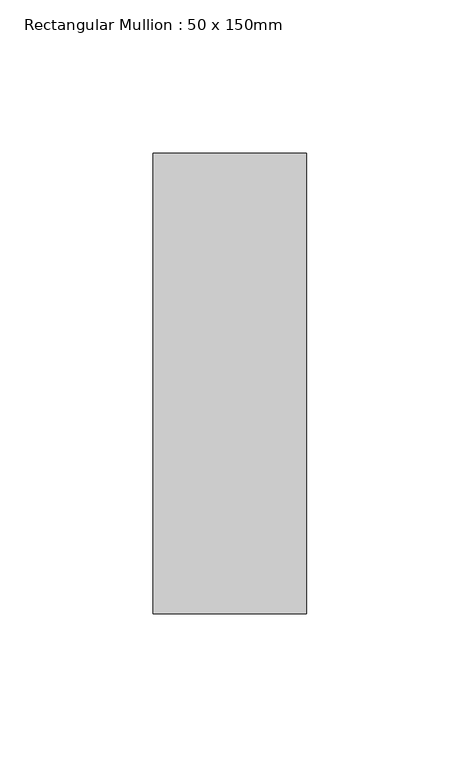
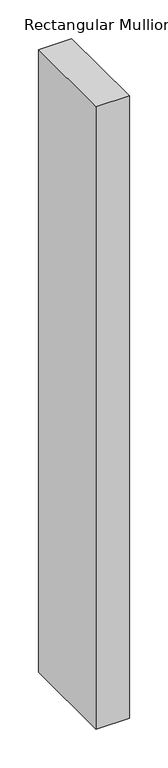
"""IFC4 building model written with IfcOpenShell, lengths in millimetres: member geometry, Rectangular Mullion : 50 x 150mm."""

from ifc_helpers import new_model, si_unit, frame, origin, place, context, project, spatial, polyline, outline, extrude, source, transform, mapped, element, save


def rectangular_mullion_50_x_150mm_fa7cbd31(model_context):
    return source(origin(), model_context, "Body", "SweptSolid", [
        extrude(outline(polyline([(25.0, 75.0), (25.0, -75.0), (-25.0, -75.0), (-25.0, 75.0), (25.0, 75.0)])), frame((0.0, 0.0, -986.4390855), z_axis=(0.0, 0.0, 1.0), x_axis=(1.0, 0.0, 0.0)), (0.0, 0.0, 1.0), 986.4390855),
    ])


if __name__ == "__main__":
    model = new_model("IFC4")
    model_context = context("Model", 3, world=origin())
    ifc_project = project(units=[si_unit("LENGTHUNIT", "METRE", prefix="MILLI")], contexts=[model_context])
    site = spatial("IfcSite", under=ifc_project)
    building = spatial("IfcBuilding", under=site)
    placement = place(None, origin())
    rectangular_mullion_50_x_150mm_shape = rectangular_mullion_50_x_150mm_fa7cbd31(model_context)
    element("IfcMember", 1, ObjectType="Rectangular Mullion : 50 x 150mm", at=placement, inside=building, context=model_context, shape_type="MappedRepresentation", body=[
        mapped(rectangular_mullion_50_x_150mm_shape, transform((0.0, 0.0, 0.0), x_axis=(1.0, 0.0, 0.0), y_axis=(0.0, 1.0, 0.0), z_axis=(0.0, 0.0, 1.0))),
    ])
    save(model, "model.ifc")
